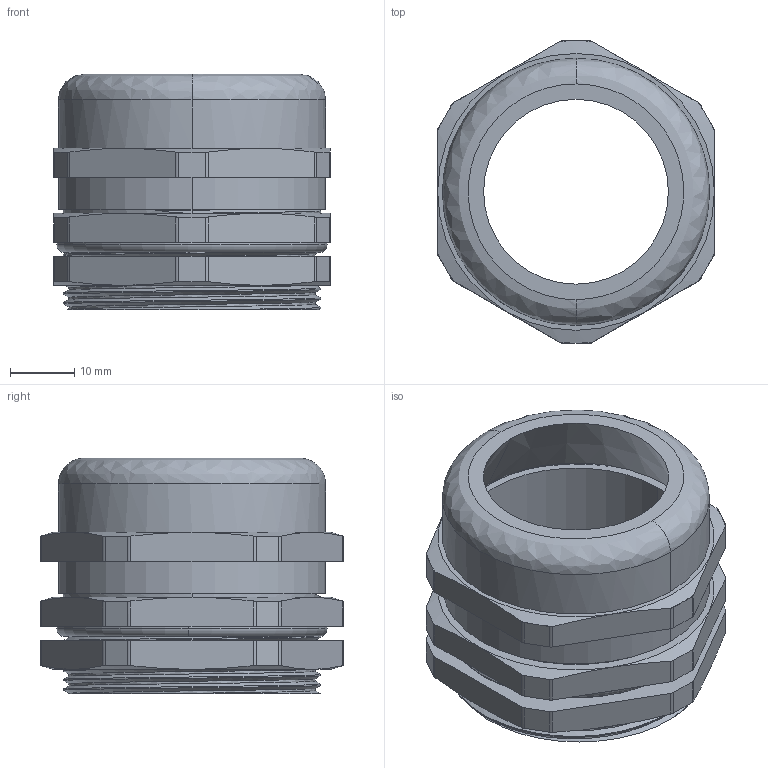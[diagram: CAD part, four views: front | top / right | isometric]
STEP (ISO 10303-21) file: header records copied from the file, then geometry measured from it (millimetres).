
FILE_DESCRIPTION (( 'STEP AP214' ), '1' );
FILE_NAME ('R5BCM40.STEP', '2022-10-11T06:41:59', ( '' ), ( '' ), 'SwSTEP 2.0', 'SolidWorks 2022', '' );
FILE_SCHEMA (( 'AUTOMOTIVE_DESIGN' ));
Length unit declared in the file: millimetre
Products named in the file (5): R5BCM40; Крышка_R5BCM40; Фиксирующая гайка_R5BCM40; Корпус_R5BCM40; Уплотнительное кольцо_R5BCM40
Assembly tree (4 placements, depth 2):
  R5BCM40
    Корпус_R5BCM40
    Уплотнительное кольцо_R5BCM40
    Фиксирующая гайка_R5BCM40
    Крышка_R5BCM40
Bounding box: 43 x 47 x 36.6 mm (x, y, z)
Volume: 15529.5 mm3; surface area: 19164.2 mm2
Topology: 4 solids, 4 shells, 203 faces, 533 edges, 342 vertices
Faces by surface type: cylinder 95, plane 66, cone 22, bspline 14, torus 6
Entity records: 14591 total; most frequent: CARTESIAN_POINT 9856, ORIENTED_EDGE 1066, DIRECTION 838, EDGE_CURVE 533, VERTEX_POINT 342, AXIS2_PLACEMENT_3D 318, EDGE_LOOP 215, FACE_OUTER_BOUND 203
